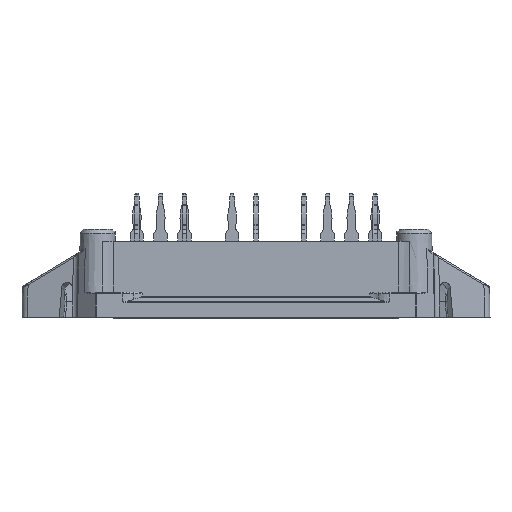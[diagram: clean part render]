
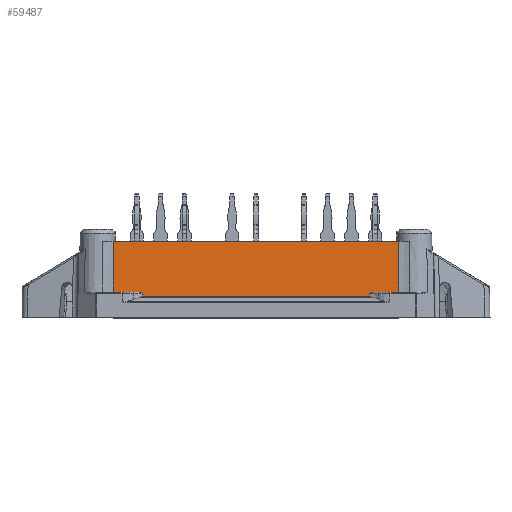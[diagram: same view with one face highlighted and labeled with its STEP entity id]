
A CAD part, front view. The second image highlights one B-rep face of the part: STEP entity #59487.
In plain terms, the highlighted planar face has unit normal (0, -1, 0.018).
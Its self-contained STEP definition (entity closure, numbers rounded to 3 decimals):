
#3120=B_SPLINE_CURVE_WITH_KNOTS('',3,(#82184,#82185,#82186,#82187,#82188,
#82189,#82190),.UNSPECIFIED.,.F.,.F.,(4,1,1,1,4),(0.,
0.,0.,0.,0.001),
 .UNSPECIFIED.);
#3130=B_SPLINE_CURVE_WITH_KNOTS('',3,(#82328,#82329,#82330,#82331),
 .UNSPECIFIED.,.F.,.F.,(4,4),(0.,0.001),
 .UNSPECIFIED.);
#3131=B_SPLINE_CURVE_WITH_KNOTS('',3,(#82345,#82346,#82347,#82348),
 .UNSPECIFIED.,.F.,.F.,(4,4),(0.001,0.001),
 .UNSPECIFIED.);
#3155=B_SPLINE_CURVE_WITH_KNOTS('',3,(#82635,#82636,#82637,#82638),
 .UNSPECIFIED.,.F.,.F.,(4,4),(0.,0.007),
 .UNSPECIFIED.);
#3157=B_SPLINE_CURVE_WITH_KNOTS('',3,(#82647,#82648,#82649,#82650,#82651,
#82652),.UNSPECIFIED.,.F.,.F.,(4,1,1,4),(0.,0.,0.001,
0.001),.UNSPECIFIED.);
#3158=B_SPLINE_CURVE_WITH_KNOTS('',3,(#82664,#82665,#82666,#82667),
 .UNSPECIFIED.,.F.,.F.,(4,4),(0.,0.007),.UNSPECIFIED.);
#5162=ORIENTED_EDGE('',*,*,#17580,.T.);
#5163=ORIENTED_EDGE('',*,*,#17536,.T.);
#5164=ORIENTED_EDGE('',*,*,#17587,.T.);
#5165=ORIENTED_EDGE('',*,*,#17529,.T.);
#5166=ORIENTED_EDGE('',*,*,#17606,.F.);
#5167=ORIENTED_EDGE('',*,*,#17675,.T.);
#5168=ORIENTED_EDGE('',*,*,#16539,.T.);
#5169=ORIENTED_EDGE('',*,*,#17684,.T.);
#5170=ORIENTED_EDGE('',*,*,#17685,.T.);
#5171=ORIENTED_EDGE('',*,*,#17678,.T.);
#16539=EDGE_CURVE('',#22906,#22905,#26770,.F.);
#17529=EDGE_CURVE('',#23830,#23831,#3120,.T.);
#17536=EDGE_CURVE('',#23835,#23837,#27233,.F.);
#17580=EDGE_CURVE('',#23865,#23835,#3130,.T.);
#17587=EDGE_CURVE('',#23837,#23830,#3131,.T.);
#17606=EDGE_CURVE('',#23883,#23831,#27253,.F.);
#17675=EDGE_CURVE('',#23883,#22906,#3155,.T.);
#17678=EDGE_CURVE('',#23926,#23865,#3157,.T.);
#17684=EDGE_CURVE('',#22905,#23930,#3158,.T.);
#17685=EDGE_CURVE('',#23930,#23926,#27283,.F.);
#22905=VERTEX_POINT('',#79671);
#22906=VERTEX_POINT('',#79673);
#23830=VERTEX_POINT('',#82191);
#23831=VERTEX_POINT('',#82192);
#23835=VERTEX_POINT('',#82206);
#23837=VERTEX_POINT('',#82215);
#23865=VERTEX_POINT('',#82332);
#23883=VERTEX_POINT('',#82391);
#23926=VERTEX_POINT('',#82653);
#23930=VERTEX_POINT('',#82668);
#26770=LINE('',#79672,#30848);
#27233=LINE('',#82216,#31311);
#27253=LINE('',#82392,#31331);
#27283=LINE('',#82669,#31361);
#30848=VECTOR('',#66611,1000.);
#31311=VECTOR('',#68082,1000.);
#31331=VECTOR('',#68228,1000.);
#31361=VECTOR('',#68354,1000.);
#35082=EDGE_LOOP('',(#5162,#5163,#5164,#5165,#5166,#5167,#5168,#5169,#5170,
#5171));
#37778=FACE_BOUND('',#35082,.T.);
#40284=PLANE('',#62611);
#59487=ADVANCED_FACE('',(#37778),#40284,.T.);
#62611=AXIS2_PLACEMENT_3D('',#82663,#68352,#68353);
#66611=DIRECTION('',(1.,0.,0.));
#68082=DIRECTION('',(-1.,0.,0.));
#68228=DIRECTION('',(1.,0.,0.));
#68352=DIRECTION('',(0.,-1.,0.017));
#68353=DIRECTION('',(0.,0.017,1.));
#68354=DIRECTION('',(-1.,0.,0.));
#79671=CARTESIAN_POINT('',(-19.154,-16.103,10.2));
#79672=CARTESIAN_POINT('',(-26.5,-16.103,10.2));
#79673=CARTESIAN_POINT('',(19.154,-16.103,10.2));
#82184=CARTESIAN_POINT('',(15.277,-16.225,3.203));
#82185=CARTESIAN_POINT('',(15.277,-16.224,3.233));
#82186=CARTESIAN_POINT('',(15.331,-16.223,3.273));
#82187=CARTESIAN_POINT('',(15.431,-16.223,3.319));
#82188=CARTESIAN_POINT('',(15.627,-16.222,3.377));
#82189=CARTESIAN_POINT('',(15.794,-16.221,3.4));
#82190=CARTESIAN_POINT('',(15.909,-16.221,3.4));
#82191=CARTESIAN_POINT('',(15.277,-16.225,3.203));
#82192=CARTESIAN_POINT('',(15.909,-16.221,3.4));
#82206=CARTESIAN_POINT('',(-15.277,-16.231,2.822));
#82215=CARTESIAN_POINT('',(15.277,-16.231,2.822));
#82216=CARTESIAN_POINT('',(15.276,-16.231,2.822));
#82328=CARTESIAN_POINT('',(-15.277,-16.225,3.203));
#82329=CARTESIAN_POINT('',(-15.277,-16.227,3.076));
#82330=CARTESIAN_POINT('',(-15.277,-16.229,2.949));
#82331=CARTESIAN_POINT('',(-15.277,-16.231,2.822));
#82332=CARTESIAN_POINT('',(-15.277,-16.225,3.203));
#82345=CARTESIAN_POINT('',(15.277,-16.231,2.822));
#82346=CARTESIAN_POINT('',(15.277,-16.229,2.949));
#82347=CARTESIAN_POINT('',(15.277,-16.227,3.076));
#82348=CARTESIAN_POINT('',(15.277,-16.225,3.203));
#82391=CARTESIAN_POINT('',(19.136,-16.221,3.4));
#82392=CARTESIAN_POINT('',(-26.5,-16.221,3.4));
#82635=CARTESIAN_POINT('',(19.136,-16.221,3.4));
#82636=CARTESIAN_POINT('',(19.142,-16.182,5.667));
#82637=CARTESIAN_POINT('',(19.148,-16.142,7.933));
#82638=CARTESIAN_POINT('',(19.154,-16.103,10.2));
#82647=CARTESIAN_POINT('',(-15.909,-16.221,3.4));
#82648=CARTESIAN_POINT('',(-15.794,-16.221,3.4));
#82649=CARTESIAN_POINT('',(-15.619,-16.222,3.378));
#82650=CARTESIAN_POINT('',(-15.415,-16.223,3.31));
#82651=CARTESIAN_POINT('',(-15.277,-16.224,3.262));
#82652=CARTESIAN_POINT('',(-15.277,-16.225,3.203));
#82653=CARTESIAN_POINT('',(-15.909,-16.221,3.4));
#82663=CARTESIAN_POINT('',(-26.5,-16.23,2.9));
#82664=CARTESIAN_POINT('',(-19.154,-16.103,10.2));
#82665=CARTESIAN_POINT('',(-19.148,-16.142,7.933));
#82666=CARTESIAN_POINT('',(-19.142,-16.182,5.667));
#82667=CARTESIAN_POINT('',(-19.136,-16.221,3.4));
#82668=CARTESIAN_POINT('',(-19.136,-16.221,3.4));
#82669=CARTESIAN_POINT('',(-26.5,-16.221,3.4));
